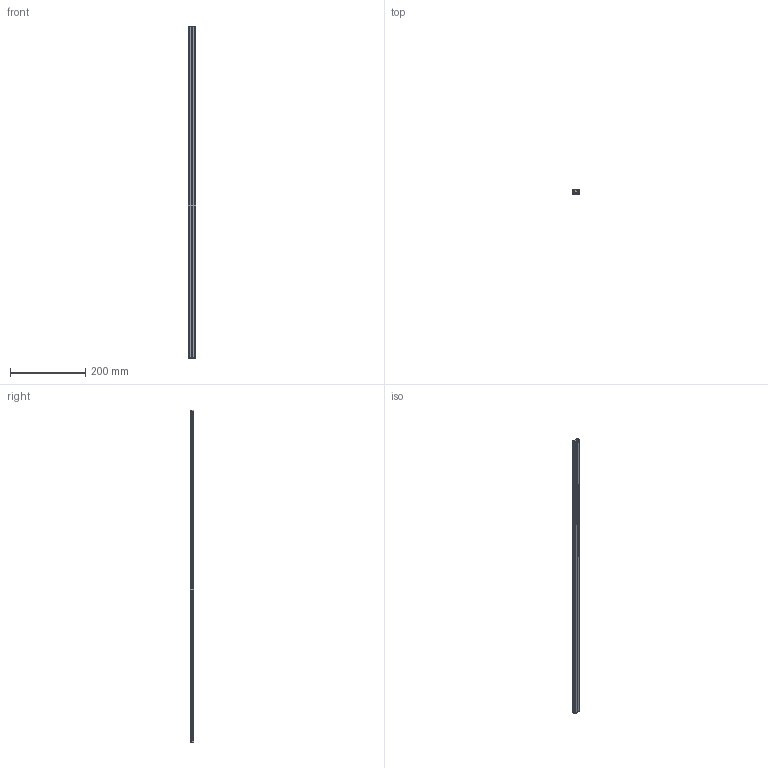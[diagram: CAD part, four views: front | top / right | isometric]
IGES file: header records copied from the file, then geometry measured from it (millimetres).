
Start section: SolidWorks IGES file using analytic representation for surfaces
Global section: file name: C:\Users\JoãoSantos\Desktop\02_3D.2D\01_2020\02_Linear\13_Limit\02_Limit_Flat\Componentes\Limit\LIMIT_FLAT_880.IGS; native system: SolidWorks 2020; preprocessor: SolidWorks 2020; author: JoãoSantos; date: 201023.152841; units: millimetre
Bounding box: 20.25 x 10.45 x 880.1 mm (x, y, z)
Surface area: 122614.4 mm2 (no closed solid volume)
Topology: 0 solids, 0 shells, 274 faces, 2328 edges, 2320 vertices
Faces by surface type: bspline 146, revolution 128
